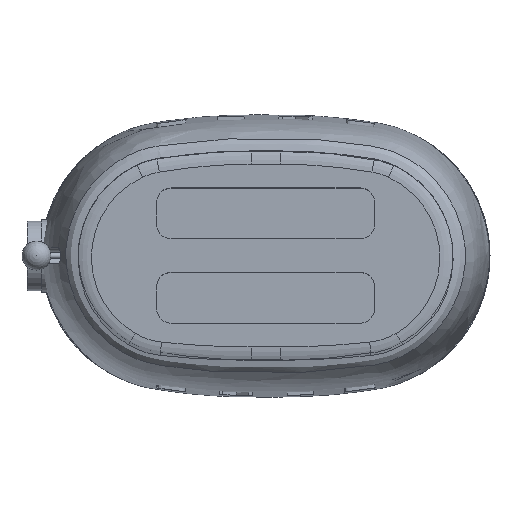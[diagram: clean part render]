
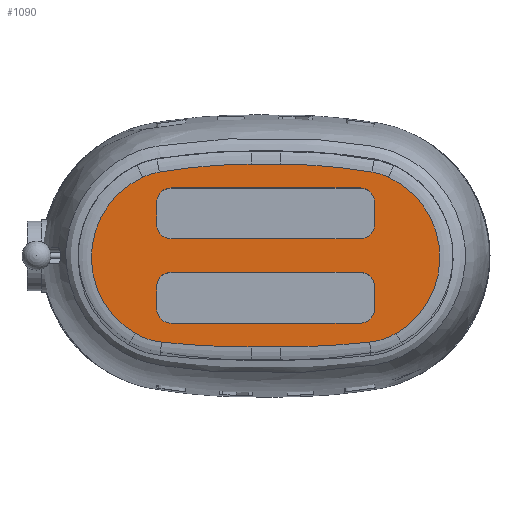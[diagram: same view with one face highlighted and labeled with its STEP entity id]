
A CAD part, top view. The second image highlights one B-rep face of the part: STEP entity #1090.
In plain terms, the highlighted planar face has unit normal (0, 0, 1).
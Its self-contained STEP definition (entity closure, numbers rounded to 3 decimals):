
#1090=ADVANCED_FACE('',(#1318,#1319,#1320),#1270,.T.);
#1270=PLANE('',#4883);
#1318=FACE_BOUND('',#1578,.T.);
#1319=FACE_BOUND('',#1579,.T.);
#1320=FACE_BOUND('',#1580,.T.);
#1578=EDGE_LOOP('',(#3220,#3221,#3222,#3223,#3224,#3225,#3226,#3227,#3228,
#3229,#3230,#3231));
#1579=EDGE_LOOP('',(#3232,#3233,#3234,#3235,#3236,#3237,#3238,#3239));
#1580=EDGE_LOOP('',(#3240,#3241,#3242,#3243,#3244,#3245,#3246,#3247));
#1813=LINE('',#12188,#2078);
#1814=LINE('',#12200,#2079);
#1815=LINE('',#12204,#2080);
#1816=LINE('',#12208,#2081);
#1817=LINE('',#12212,#2082);
#1818=LINE('',#12216,#2083);
#1819=LINE('',#12220,#2084);
#1820=LINE('',#12224,#2085);
#1821=LINE('',#12228,#2086);
#1822=LINE('',#12232,#2087);
#2078=VECTOR('',#5766,1.);
#2079=VECTOR('',#5777,1.);
#2080=VECTOR('',#5780,1.);
#2081=VECTOR('',#5783,1.);
#2082=VECTOR('',#5786,1.);
#2083=VECTOR('',#5789,1.);
#2084=VECTOR('',#5792,1.);
#2085=VECTOR('',#5795,1.);
#2086=VECTOR('',#5798,1.);
#2087=VECTOR('',#5801,1.);
#3220=ORIENTED_EDGE('',*,*,#4371,.T.);
#3221=ORIENTED_EDGE('',*,*,#4372,.T.);
#3222=ORIENTED_EDGE('',*,*,#4373,.T.);
#3223=ORIENTED_EDGE('',*,*,#4374,.T.);
#3224=ORIENTED_EDGE('',*,*,#4375,.T.);
#3225=ORIENTED_EDGE('',*,*,#4376,.T.);
#3226=ORIENTED_EDGE('',*,*,#4377,.T.);
#3227=ORIENTED_EDGE('',*,*,#4378,.T.);
#3228=ORIENTED_EDGE('',*,*,#4379,.T.);
#3229=ORIENTED_EDGE('',*,*,#4380,.T.);
#3230=ORIENTED_EDGE('',*,*,#4381,.T.);
#3231=ORIENTED_EDGE('',*,*,#4382,.T.);
#3232=ORIENTED_EDGE('',*,*,#4383,.T.);
#3233=ORIENTED_EDGE('',*,*,#4384,.T.);
#3234=ORIENTED_EDGE('',*,*,#4385,.T.);
#3235=ORIENTED_EDGE('',*,*,#4386,.T.);
#3236=ORIENTED_EDGE('',*,*,#4387,.T.);
#3237=ORIENTED_EDGE('',*,*,#4388,.T.);
#3238=ORIENTED_EDGE('',*,*,#4389,.T.);
#3239=ORIENTED_EDGE('',*,*,#4390,.T.);
#3240=ORIENTED_EDGE('',*,*,#4391,.T.);
#3241=ORIENTED_EDGE('',*,*,#4392,.T.);
#3242=ORIENTED_EDGE('',*,*,#4393,.T.);
#3243=ORIENTED_EDGE('',*,*,#4394,.T.);
#3244=ORIENTED_EDGE('',*,*,#4395,.T.);
#3245=ORIENTED_EDGE('',*,*,#4396,.T.);
#3246=ORIENTED_EDGE('',*,*,#4397,.T.);
#3247=ORIENTED_EDGE('',*,*,#4398,.T.);
#3762=VERTEX_POINT('',#12178);
#3763=VERTEX_POINT('',#12179);
#3764=VERTEX_POINT('',#12181);
#3765=VERTEX_POINT('',#12183);
#3766=VERTEX_POINT('',#12185);
#3767=VERTEX_POINT('',#12187);
#3768=VERTEX_POINT('',#12189);
#3769=VERTEX_POINT('',#12191);
#3770=VERTEX_POINT('',#12193);
#3771=VERTEX_POINT('',#12195);
#3772=VERTEX_POINT('',#12197);
#3773=VERTEX_POINT('',#12199);
#3774=VERTEX_POINT('',#12202);
#3775=VERTEX_POINT('',#12203);
#3776=VERTEX_POINT('',#12205);
#3777=VERTEX_POINT('',#12207);
#3778=VERTEX_POINT('',#12209);
#3779=VERTEX_POINT('',#12211);
#3780=VERTEX_POINT('',#12213);
#3781=VERTEX_POINT('',#12215);
#3782=VERTEX_POINT('',#12218);
#3783=VERTEX_POINT('',#12219);
#3784=VERTEX_POINT('',#12221);
#3785=VERTEX_POINT('',#12223);
#3786=VERTEX_POINT('',#12225);
#3787=VERTEX_POINT('',#12227);
#3788=VERTEX_POINT('',#12229);
#3789=VERTEX_POINT('',#12231);
#4371=EDGE_CURVE('',#3762,#3763,#4525,.T.);
#4372=EDGE_CURVE('',#3763,#3764,#4526,.T.);
#4373=EDGE_CURVE('',#3764,#3765,#4527,.T.);
#4374=EDGE_CURVE('',#3765,#3766,#4528,.T.);
#4375=EDGE_CURVE('',#3766,#3767,#4529,.T.);
#4376=EDGE_CURVE('',#3767,#3768,#1813,.T.);
#4377=EDGE_CURVE('',#3768,#3769,#4530,.T.);
#4378=EDGE_CURVE('',#3769,#3770,#4531,.T.);
#4379=EDGE_CURVE('',#3770,#3771,#4532,.T.);
#4380=EDGE_CURVE('',#3771,#3772,#4533,.T.);
#4381=EDGE_CURVE('',#3772,#3773,#4534,.T.);
#4382=EDGE_CURVE('',#3773,#3762,#1814,.T.);
#4383=EDGE_CURVE('',#3774,#3775,#4535,.T.);
#4384=EDGE_CURVE('',#3775,#3776,#1815,.T.);
#4385=EDGE_CURVE('',#3776,#3777,#4536,.T.);
#4386=EDGE_CURVE('',#3777,#3778,#1816,.T.);
#4387=EDGE_CURVE('',#3778,#3779,#4537,.T.);
#4388=EDGE_CURVE('',#3779,#3780,#1817,.T.);
#4389=EDGE_CURVE('',#3780,#3781,#4538,.T.);
#4390=EDGE_CURVE('',#3781,#3774,#1818,.T.);
#4391=EDGE_CURVE('',#3782,#3783,#4539,.T.);
#4392=EDGE_CURVE('',#3783,#3784,#1819,.T.);
#4393=EDGE_CURVE('',#3784,#3785,#4540,.T.);
#4394=EDGE_CURVE('',#3785,#3786,#1820,.T.);
#4395=EDGE_CURVE('',#3786,#3787,#4541,.T.);
#4396=EDGE_CURVE('',#3787,#3788,#1821,.T.);
#4397=EDGE_CURVE('',#3788,#3789,#4542,.T.);
#4398=EDGE_CURVE('',#3789,#3782,#1822,.T.);
#4525=CIRCLE('',#4865,373.206);
#4526=CIRCLE('',#4866,45.835);
#4527=CIRCLE('',#4867,60.643);
#4528=CIRCLE('',#4868,45.835);
#4529=CIRCLE('',#4869,575.436);
#4530=CIRCLE('',#4870,575.436);
#4531=CIRCLE('',#4871,45.835);
#4532=CIRCLE('',#4872,60.643);
#4533=CIRCLE('',#4873,45.835);
#4534=CIRCLE('',#4874,373.206);
#4535=CIRCLE('',#4875,10.);
#4536=CIRCLE('',#4876,10.);
#4537=CIRCLE('',#4877,10.);
#4538=CIRCLE('',#4878,10.);
#4539=CIRCLE('',#4879,10.);
#4540=CIRCLE('',#4880,10.);
#4541=CIRCLE('',#4881,10.);
#4542=CIRCLE('',#4882,10.);
#4865=AXIS2_PLACEMENT_3D('',#12177,#5756,#5757);
#4866=AXIS2_PLACEMENT_3D('',#12180,#5758,#5759);
#4867=AXIS2_PLACEMENT_3D('',#12182,#5760,#5761);
#4868=AXIS2_PLACEMENT_3D('',#12184,#5762,#5763);
#4869=AXIS2_PLACEMENT_3D('',#12186,#5764,#5765);
#4870=AXIS2_PLACEMENT_3D('',#12190,#5767,#5768);
#4871=AXIS2_PLACEMENT_3D('',#12192,#5769,#5770);
#4872=AXIS2_PLACEMENT_3D('',#12194,#5771,#5772);
#4873=AXIS2_PLACEMENT_3D('',#12196,#5773,#5774);
#4874=AXIS2_PLACEMENT_3D('',#12198,#5775,#5776);
#4875=AXIS2_PLACEMENT_3D('',#12201,#5778,#5779);
#4876=AXIS2_PLACEMENT_3D('',#12206,#5781,#5782);
#4877=AXIS2_PLACEMENT_3D('',#12210,#5784,#5785);
#4878=AXIS2_PLACEMENT_3D('',#12214,#5787,#5788);
#4879=AXIS2_PLACEMENT_3D('',#12217,#5790,#5791);
#4880=AXIS2_PLACEMENT_3D('',#12222,#5793,#5794);
#4881=AXIS2_PLACEMENT_3D('',#12226,#5796,#5797);
#4882=AXIS2_PLACEMENT_3D('',#12230,#5799,#5800);
#4883=AXIS2_PLACEMENT_3D('',#12233,#5802,#5803);
#5756=DIRECTION('',(0.,0.,1.));
#5757=DIRECTION('',(1.,0.,0.));
#5758=DIRECTION('',(0.,0.,1.));
#5759=DIRECTION('',(1.,0.,0.));
#5760=DIRECTION('',(0.,0.,1.));
#5761=DIRECTION('',(1.,0.,0.));
#5762=DIRECTION('',(0.,0.,1.));
#5763=DIRECTION('',(1.,0.,0.));
#5764=DIRECTION('',(0.,0.,1.));
#5765=DIRECTION('',(1.,0.,0.));
#5766=DIRECTION('',(1.,0.,0.));
#5767=DIRECTION('',(0.,0.,1.));
#5768=DIRECTION('',(1.,0.,0.));
#5769=DIRECTION('',(0.,0.,1.));
#5770=DIRECTION('',(1.,0.,0.));
#5771=DIRECTION('',(0.,0.,1.));
#5772=DIRECTION('',(1.,0.,0.));
#5773=DIRECTION('',(0.,0.,1.));
#5774=DIRECTION('',(1.,0.,0.));
#5775=DIRECTION('',(0.,0.,1.));
#5776=DIRECTION('',(1.,0.,0.));
#5777=DIRECTION('',(-1.,0.,0.));
#5778=DIRECTION('',(0.,0.,-1.));
#5779=DIRECTION('',(1.,0.,0.));
#5780=DIRECTION('',(0.,1.,0.));
#5781=DIRECTION('',(0.,0.,-1.));
#5782=DIRECTION('',(1.,0.,0.));
#5783=DIRECTION('',(1.,0.,0.));
#5784=DIRECTION('',(0.,0.,-1.));
#5785=DIRECTION('',(1.,0.,0.));
#5786=DIRECTION('',(0.,-1.,0.));
#5787=DIRECTION('',(0.,0.,-1.));
#5788=DIRECTION('',(1.,0.,0.));
#5789=DIRECTION('',(-1.,0.,0.));
#5790=DIRECTION('',(0.,0.,-1.));
#5791=DIRECTION('',(1.,0.,0.));
#5792=DIRECTION('',(0.,1.,0.));
#5793=DIRECTION('',(0.,0.,-1.));
#5794=DIRECTION('',(1.,0.,0.));
#5795=DIRECTION('',(1.,0.,0.));
#5796=DIRECTION('',(0.,0.,-1.));
#5797=DIRECTION('',(1.,0.,0.));
#5798=DIRECTION('',(0.,-1.,0.));
#5799=DIRECTION('',(0.,0.,-1.));
#5800=DIRECTION('',(1.,0.,0.));
#5801=DIRECTION('',(-1.,0.,0.));
#5802=DIRECTION('',(0.,0.,1.));
#5803=DIRECTION('',(1.,0.,0.));
#12177=CARTESIAN_POINT('',(-10.,-310.372,202.));
#12178=CARTESIAN_POINT('',(-10.,62.835,202.));
#12179=CARTESIAN_POINT('',(-73.129,57.457,202.));
#12180=CARTESIAN_POINT('',(-65.376,12.283,202.));
#12181=CARTESIAN_POINT('',(-84.516,53.93,202.));
#12182=CARTESIAN_POINT('',(-59.192,-1.172,202.));
#12183=CARTESIAN_POINT('',(-89.764,-53.545,202.));
#12184=CARTESIAN_POINT('',(-66.657,-13.961,202.));
#12185=CARTESIAN_POINT('',(-71.561,-59.532,202.));
#12186=CARTESIAN_POINT('',(-10.,512.602,202.));
#12187=CARTESIAN_POINT('',(-10.,-62.835,202.));
#12188=CARTESIAN_POINT('',(10.,-62.835,202.));
#12189=CARTESIAN_POINT('',(10.,-62.835,202.));
#12190=CARTESIAN_POINT('',(10.,512.602,202.));
#12191=CARTESIAN_POINT('',(71.561,-59.532,202.));
#12192=CARTESIAN_POINT('',(66.657,-13.961,202.));
#12193=CARTESIAN_POINT('',(89.764,-53.545,202.));
#12194=CARTESIAN_POINT('',(59.192,-1.172,202.));
#12195=CARTESIAN_POINT('',(84.516,53.93,202.));
#12196=CARTESIAN_POINT('',(65.376,12.283,202.));
#12197=CARTESIAN_POINT('',(73.129,57.457,202.));
#12198=CARTESIAN_POINT('',(10.,-310.372,202.));
#12199=CARTESIAN_POINT('',(10.,62.835,202.));
#12200=CARTESIAN_POINT('',(-10.,62.835,202.));
#12201=CARTESIAN_POINT('',(-65.,21.5,202.));
#12202=CARTESIAN_POINT('',(-65.,11.5,202.));
#12203=CARTESIAN_POINT('',(-75.,21.5,202.));
#12204=CARTESIAN_POINT('',(-75.,-1.172,202.));
#12205=CARTESIAN_POINT('',(-75.,36.5,202.));
#12206=CARTESIAN_POINT('',(-65.,36.5,202.));
#12207=CARTESIAN_POINT('',(-65.,46.5,202.));
#12208=CARTESIAN_POINT('',(-59.192,46.5,202.));
#12209=CARTESIAN_POINT('',(65.,46.5,202.));
#12210=CARTESIAN_POINT('',(65.,36.5,202.));
#12211=CARTESIAN_POINT('',(75.,36.5,202.));
#12212=CARTESIAN_POINT('',(75.,-1.172,202.));
#12213=CARTESIAN_POINT('',(75.,21.5,202.));
#12214=CARTESIAN_POINT('',(65.,21.5,202.));
#12215=CARTESIAN_POINT('',(65.,11.5,202.));
#12216=CARTESIAN_POINT('',(-59.192,11.5,202.));
#12217=CARTESIAN_POINT('',(-65.,-36.5,202.));
#12218=CARTESIAN_POINT('',(-65.,-46.5,202.));
#12219=CARTESIAN_POINT('',(-75.,-36.5,202.));
#12220=CARTESIAN_POINT('',(-75.,-1.172,202.));
#12221=CARTESIAN_POINT('',(-75.,-21.5,202.));
#12222=CARTESIAN_POINT('',(-65.,-21.5,202.));
#12223=CARTESIAN_POINT('',(-65.,-11.5,202.));
#12224=CARTESIAN_POINT('',(-59.192,-11.5,202.));
#12225=CARTESIAN_POINT('',(65.,-11.5,202.));
#12226=CARTESIAN_POINT('',(65.,-21.5,202.));
#12227=CARTESIAN_POINT('',(75.,-21.5,202.));
#12228=CARTESIAN_POINT('',(75.,-1.172,202.));
#12229=CARTESIAN_POINT('',(75.,-36.5,202.));
#12230=CARTESIAN_POINT('',(65.,-36.5,202.));
#12231=CARTESIAN_POINT('',(65.,-46.5,202.));
#12232=CARTESIAN_POINT('',(-59.192,-46.5,202.));
#12233=CARTESIAN_POINT('',(-59.192,-1.172,202.));
